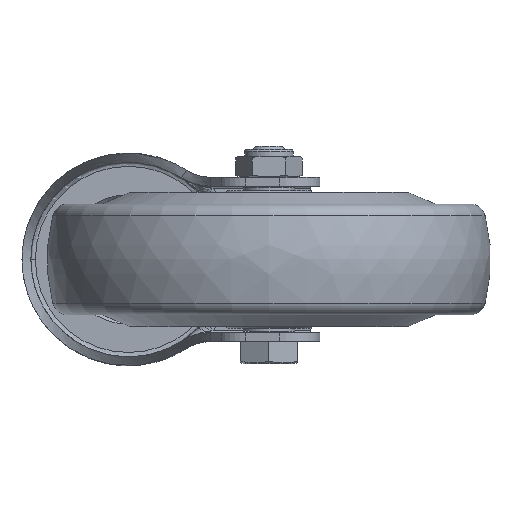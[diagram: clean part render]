
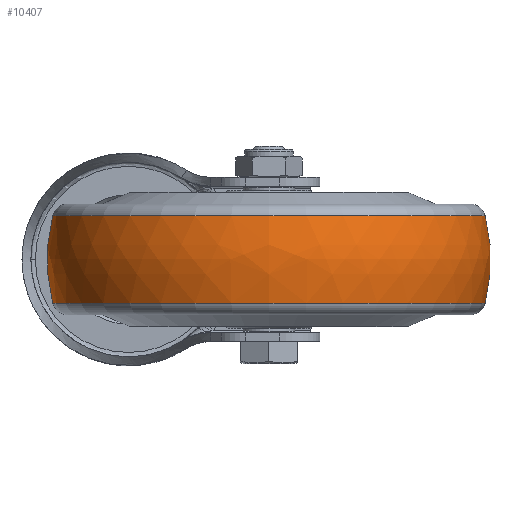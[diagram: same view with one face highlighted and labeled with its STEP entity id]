
A CAD part, front view. The second image highlights one B-rep face of the part: STEP entity #10407.
In plain terms, the highlighted free-form (B-spline) face has degree [3, 3] with [7, 4] control points.
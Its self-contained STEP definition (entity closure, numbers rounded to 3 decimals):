
#9909=CARTESIAN_POINT('',(0.,10.,0.));
#9910=DIRECTION('',(0.,0.,1.));
#9911=DIRECTION('',(0.247,0.969,0.));
#9912=AXIS2_PLACEMENT_3D('',#9909,#9910,#9911);
#9914=CARTESIAN_POINT('',(0.,-10.,0.));
#9915=DIRECTION('',(0.,0.,-1.));
#9916=DIRECTION('',(0.247,-0.969,0.));
#9917=AXIS2_PLACEMENT_3D('',#9914,#9915,#9916);
#9919=CARTESIAN_POINT('',(9.863,0.,0.));
#9920=DIRECTION('',(-1.,0.,0.));
#9921=DIRECTION('',(0.,1.,0.));
#9922=AXIS2_PLACEMENT_3D('',#9919,#9920,#9921);
#9944=CARTESIAN_POINT('',(-9.863,0.,0.));
#9945=DIRECTION('',(-1.,0.,0.));
#9946=DIRECTION('',(0.,1.,0.));
#9947=AXIS2_PLACEMENT_3D('',#9944,#9945,#9946);
#10098=CARTESIAN_POINT('',(9.863,48.765,0.));
#10100=VERTEX_POINT('',#10098);
#10101=CARTESIAN_POINT('',(-9.863,48.765,0.));
#10102=VERTEX_POINT('',#10101);
#10138=CARTESIAN_POINT('',(9.863,-48.765,
0.));
#10140=VERTEX_POINT('',#10138);
#10141=CARTESIAN_POINT('',(-9.863,-48.765,
0.));
#10142=VERTEX_POINT('',#10141);
#10369=CARTESIAN_POINT('',(-10.249,-48.569,
3.056));
#10370=CARTESIAN_POINT('',(-3.494,-50.356,
3.168));
#10371=CARTESIAN_POINT('',(3.494,-50.356,
3.168));
#10372=CARTESIAN_POINT('',(10.249,-48.569,
3.056));
#10373=CARTESIAN_POINT('',(-10.249,-50.449,
-26.833));
#10374=CARTESIAN_POINT('',(-3.494,-52.305,
-27.821));
#10375=CARTESIAN_POINT('',(3.494,-52.305,
-27.821));
#10376=CARTESIAN_POINT('',(10.249,-50.449,
-26.833));
#10377=CARTESIAN_POINT('',(-10.249,-29.948,
-48.665));
#10378=CARTESIAN_POINT('',(-3.494,-31.05,
-50.455));
#10379=CARTESIAN_POINT('',(3.494,-31.05,
-50.455));
#10380=CARTESIAN_POINT('',(10.249,-29.948,
-48.665));
#10381=CARTESIAN_POINT('',(-10.249,0.,
-48.665));
#10382=CARTESIAN_POINT('',(-3.494,0.,
-50.455));
#10383=CARTESIAN_POINT('',(3.494,0.,
-50.455));
#10384=CARTESIAN_POINT('',(10.249,0.,
-48.665));
#10385=CARTESIAN_POINT('',(-10.249,29.948,
-48.665));
#10386=CARTESIAN_POINT('',(-3.494,31.05,
-50.455));
#10387=CARTESIAN_POINT('',(3.494,31.05,
-50.455));
#10388=CARTESIAN_POINT('',(10.249,29.948,
-48.665));
#10389=CARTESIAN_POINT('',(-10.249,50.449,
-26.833));
#10390=CARTESIAN_POINT('',(-3.494,52.305,
-27.821));
#10391=CARTESIAN_POINT('',(3.494,52.305,
-27.821));
#10392=CARTESIAN_POINT('',(10.249,50.449,
-26.833));
#10393=CARTESIAN_POINT('',(-10.249,48.569,
3.056));
#10394=CARTESIAN_POINT('',(-3.494,50.356,
3.168));
#10395=CARTESIAN_POINT('',(3.494,50.356,3.168));
#10396=CARTESIAN_POINT('',(10.249,48.569,3.056));
#10397=(BOUNDED_SURFACE()B_SPLINE_SURFACE(3,3,((#10369,#10370,#10371,#10372),(
#10373,#10374,#10375,#10376),(#10377,#10378,#10379,#10380),(#10381,#10382,
#10383,#10384),(#10385,#10386,#10387,#10388),(#10389,#10390,#10391,#10392),(
#10393,#10394,#10395,#10396)),.UNSPECIFIED.,.F.,.F.,.F.)B_SPLINE_SURFACE_WITH_KNOTS((4,3,4),(4,4),(0.,1.,2.),(0.,1.),.UNSPECIFIED.)GEOMETRIC_REPRESENTATION_ITEM()RATIONAL_B_SPLINE_SURFACE(((1.207,1.181,
1.181,1.207),(0.953,0.932,
0.932,0.953),(0.953,0.932,
0.932,0.953),(1.207,1.181,
1.181,1.207),(0.953,0.932,
0.932,0.953),(0.953,0.932,
0.932,0.953),(1.207,1.181,
1.181,1.207)))REPRESENTATION_ITEM('')SURFACE());
#10399=ORIENTED_EDGE('',*,*,#10398,.T.);
#10401=ORIENTED_EDGE('',*,*,#10400,.T.);
#10403=ORIENTED_EDGE('',*,*,#10402,.F.);
#10404=ORIENTED_EDGE('',*,*,#10362,.F.);
#10405=EDGE_LOOP('',(#10399,#10401,#10403,#10404));
#10406=FACE_OUTER_BOUND('',#10405,.F.);
#9913=CIRCLE('',#9912,40.);
#9918=CIRCLE('',#9917,40.);
#9923=CIRCLE('',#9922,48.765);
#9948=CIRCLE('',#9947,48.765);
#10362=EDGE_CURVE('',#10100,#10140,#9923,.T.);
#10398=EDGE_CURVE('',#10100,#10102,#9913,.T.);
#10400=EDGE_CURVE('',#10102,#10142,#9948,.T.);
#10402=EDGE_CURVE('',#10140,#10142,#9918,.T.);
#10407=ADVANCED_FACE('',(#10406),#10397,.T.);
